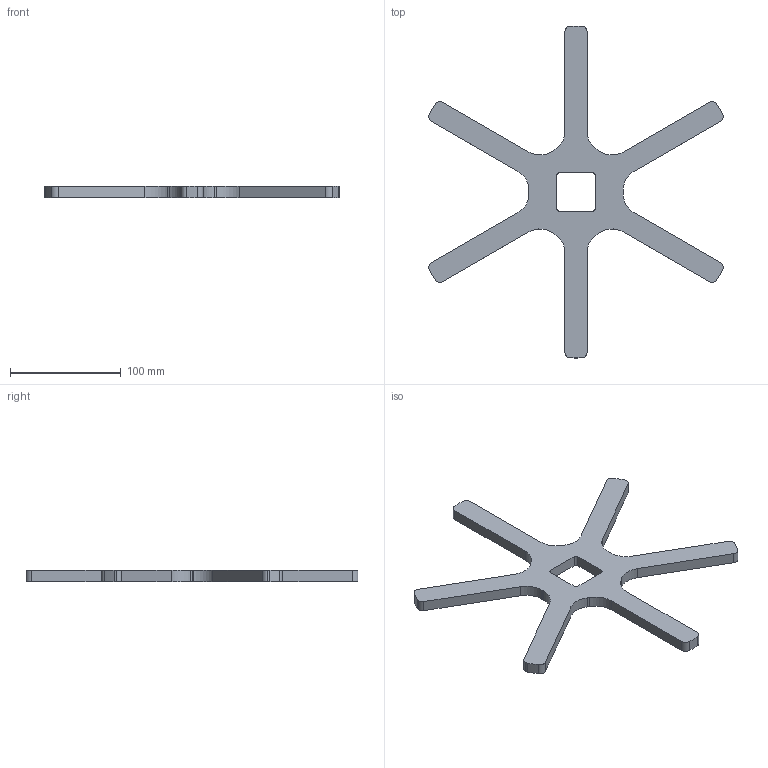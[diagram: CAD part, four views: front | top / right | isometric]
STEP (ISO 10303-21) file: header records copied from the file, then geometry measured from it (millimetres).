
FILE_DESCRIPTION (( 'STEP AP214' ), '1' );
FILE_NAME ('0005510_2_01.STEP', '2018-09-13T06:54:23', ( '' ), ( '' ), 'SwSTEP 2.0', 'SolidWorks 2018', '' );
FILE_SCHEMA (( 'AUTOMOTIVE_DESIGN' ));
Length unit declared in the file: millimetre
Products named in the file (1): 0005510_2_01
Bounding box: 266 x 299.98 x 10 mm (x, y, z)
Volume: 176792.2 mm3; surface area: 51753.6 mm2
Topology: 1 solids, 1 shells, 63 faces, 183 edges, 122 vertices
Faces by surface type: cylinder 45, plane 18
Entity records: 2165 total; most frequent: DIRECTION 401, CARTESIAN_POINT 369, ORIENTED_EDGE 366, EDGE_CURVE 183, AXIS2_PLACEMENT_3D 154, VERTEX_POINT 122, VECTOR 93, LINE 93
